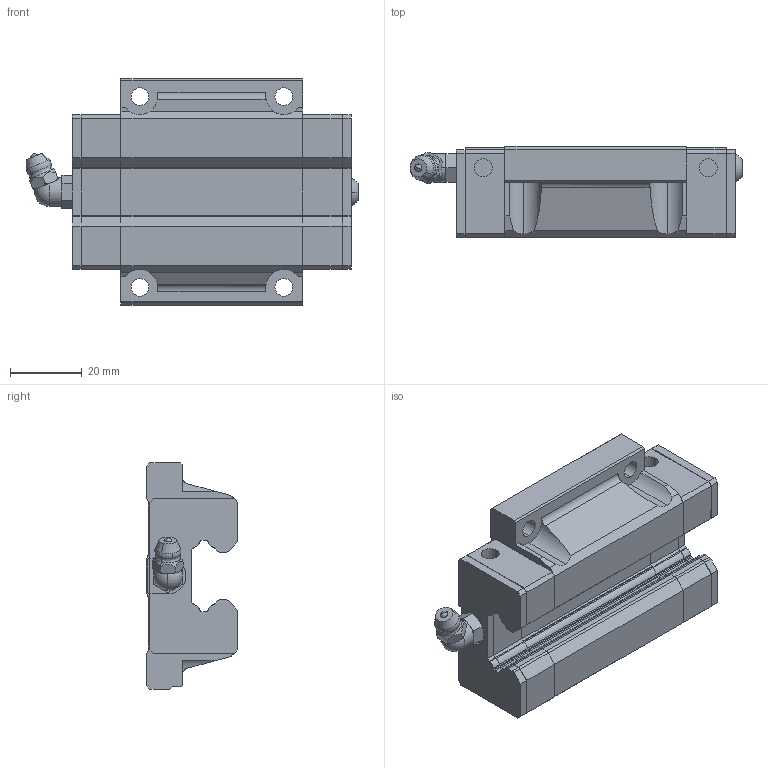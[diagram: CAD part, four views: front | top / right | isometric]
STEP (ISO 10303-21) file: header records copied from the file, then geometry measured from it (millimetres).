
FILE_DESCRIPTION (( 'STEP AP203' ), '1' );
FILE_NAME ('SGW20CA.STEP', '2025-06-27T05:49:38', ( 'Owner' ), ( 'Organization' ), 'SwSTEP 2.0', 'SolidWorks 2020', '' );
FILE_SCHEMA (( 'CONFIG_CONTROL_DESIGN' ));
Length unit declared in the file: millimetre
Products named in the file (1): SGW20CA
Bounding box: 92.3 x 25.4 x 63 mm (x, y, z)
Volume: 78315.6 mm3; surface area: 25647.5 mm2
Topology: 7 solids, 8 shells, 512 faces, 1379 edges, 893 vertices
Faces by surface type: plane 291, cylinder 162, cone 44, torus 7, sphere 6, bspline 2
Entity records: 16514 total; most frequent: CARTESIAN_POINT 3500, ORIENTED_EDGE 2750, DIRECTION 2688, EDGE_CURVE 1375, VECTOR 896, AXIS2_PLACEMENT_3D 896, LINE 896, VERTEX_POINT 891
